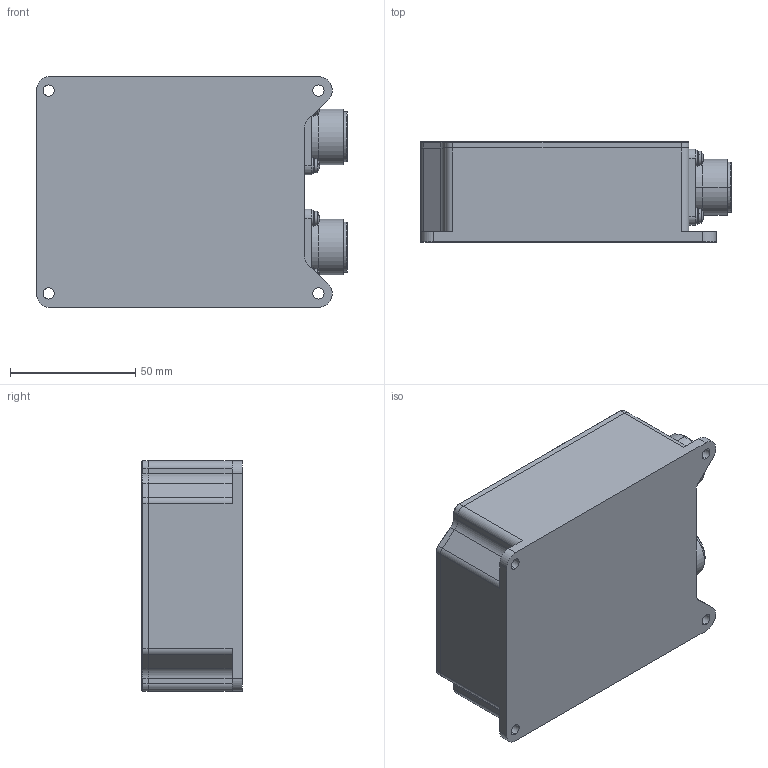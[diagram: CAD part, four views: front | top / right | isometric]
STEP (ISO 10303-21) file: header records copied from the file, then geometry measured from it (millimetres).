
FILE_DESCRIPTION (( 'STEP AP203' ), '1' );
FILE_NAME ('CASE B44-3D.STEP', '2016-08-27T17:55:45', ( 'gregory' ), ( '' ), 'SwSTEP 2.0', 'SolidWorks 2011', '' );
FILE_SCHEMA (( 'CONFIG_CONTROL_DESIGN' ));
Length unit declared in the file: millimetre
Products named in the file (9): CASE B44-3D; CONN MS3102 14 SHELL(MALE - MS3102E14S-4P)-1; GIL-10500-PR26-1; CONN MS3102 14 SHELL(FEM - MS3102E14S-4S  - 4 PIN)-1; flat head screw_ai(CR-FHMS 0.112-40x0.3125x0.3125-N)-1; pan cross head_ai(CR-PHMS 0.112-40x0.3125x0.3125-N)-1; lock washer spring regular_ai(Regular LW 0.112)-1; flat washer type a selected narrow_ai(Selected Narrow FW 0.125)-1; GIL-10500-PR18(Default)-1
Assembly tree (37 placements, depth 2):
  CASE B44-3D
    lock washer spring regular_ai(Regular LW 0.112)-1  x8
    flat head screw_ai(CR-FHMS 0.112-40x0.3125x0.3125-N)-1  x9
    flat washer type a selected narrow_ai(Selected Narrow FW 0.125)-1  x8
    pan cross head_ai(CR-PHMS 0.112-40x0.3125x0.3125-N)-1  x8
    GIL-10500-PR18(Default)-1
    CONN MS3102 14 SHELL(FEM - MS3102E14S-4S  - 4 PIN)-1
    GIL-10500-PR26-1
    CONN MS3102 14 SHELL(MALE - MS3102E14S-4P)-1
Bounding box: 124.07 x 40 x 92 mm (x, y, z)
Volume: 398364.5 mm3; surface area: 70649.2 mm2
Topology: 37 solids, 45 shells, 1247 faces, 2904 edges, 1819 vertices
Faces by surface type: plane 653, cylinder 369, bspline 107, cone 82, torus 20, sphere 16
Entity records: 32752 total; most frequent: CARTESIAN_POINT 11727, ORIENTED_EDGE 4032, DIRECTION 3802, EDGE_CURVE 2016, VERTEX_POINT 1305, AXIS2_PLACEMENT_3D 1300, LINE 1202, VECTOR 1202
